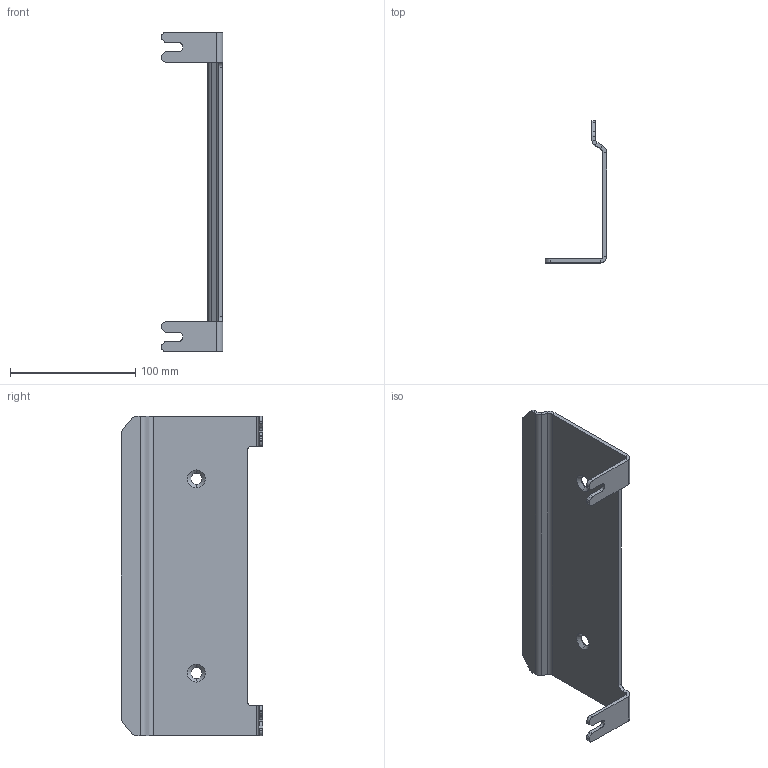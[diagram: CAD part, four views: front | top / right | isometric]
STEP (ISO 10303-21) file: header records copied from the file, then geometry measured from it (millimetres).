
FILE_DESCRIPTION (( 'STEP AP214' ), '1' );
FILE_NAME ('786-770-00_D.step', '2026-08-25T11:08:43', ( '' ), ( '' ), 'SwSTEP 2.0', 'SolidWorks 2025', '' );
FILE_SCHEMA (( 'AUTOMOTIVE_DESIGN' ));
Length unit declared in the file: millimetre
Products named in the file (1): 786-770-00_D
Bounding box: 49 x 113 x 255 mm (x, y, z)
Volume: 86412 mm3; surface area: 60792.7 mm2
Topology: 1 solids, 1 shells, 86 faces, 216 edges, 132 vertices
Faces by surface type: plane 48, cylinder 34, cone 4
Entity records: 2575 total; most frequent: DIRECTION 462, CARTESIAN_POINT 435, ORIENTED_EDGE 432, EDGE_CURVE 216, AXIS2_PLACEMENT_3D 159, VECTOR 144, LINE 144, VERTEX_POINT 132
